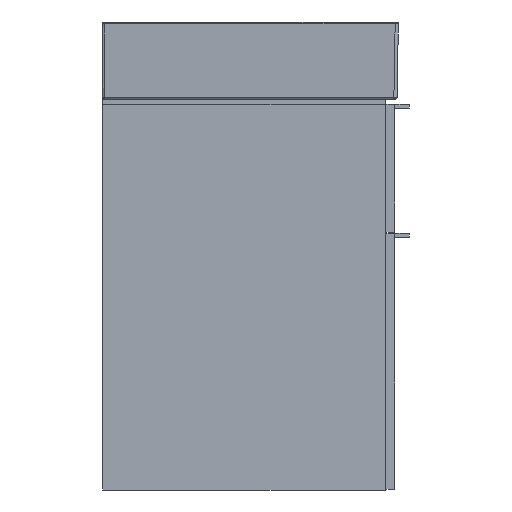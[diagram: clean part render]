
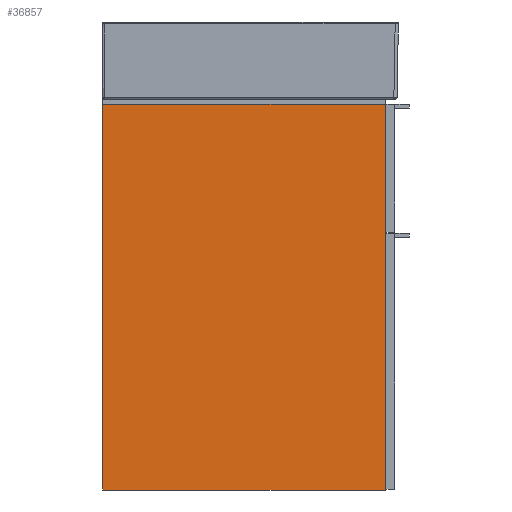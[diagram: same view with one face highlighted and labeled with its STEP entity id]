
A CAD part, left-side view. The second image highlights one B-rep face of the part: STEP entity #36857.
In plain terms, the highlighted planar face has unit normal (-1, 0, 0).
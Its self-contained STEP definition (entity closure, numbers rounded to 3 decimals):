
#3514=PLANE('',#41395);
#5259=LINE('',#127787,#8374);
#5264=LINE('',#127798,#8379);
#5266=LINE('',#127801,#8381);
#5267=LINE('',#127802,#8382);
#8374=VECTOR('',#47084,1.);
#8379=VECTOR('',#47093,1.);
#8381=VECTOR('',#47097,1.);
#8382=VECTOR('',#47098,1.);
#11232=FACE_OUTER_BOUND('',#12989,.T.);
#12989=EDGE_LOOP('',(#30505,#30506,#30507,#30508));
#19087=VERTEX_POINT('',#127780);
#19090=VERTEX_POINT('',#127785);
#19093=VERTEX_POINT('',#127795);
#19094=VERTEX_POINT('',#127797);
#24298=EDGE_CURVE('',#19090,#19087,#5259,.T.);
#24303=EDGE_CURVE('',#19094,#19093,#5264,.T.);
#24305=EDGE_CURVE('',#19093,#19087,#5266,.T.);
#24306=EDGE_CURVE('',#19090,#19094,#5267,.T.);
#30505=ORIENTED_EDGE('',*,*,#24305,.T.);
#30506=ORIENTED_EDGE('',*,*,#24298,.F.);
#30507=ORIENTED_EDGE('',*,*,#24306,.T.);
#30508=ORIENTED_EDGE('',*,*,#24303,.T.);
#36857=ADVANCED_FACE('',(#11232),#3514,.T.);
#41395=AXIS2_PLACEMENT_3D('',#127800,#47095,#47096);
#47084=DIRECTION('',(0.,-1.,0.));
#47093=DIRECTION('',(0.,-1.,0.));
#47095=DIRECTION('center_axis',(-1.,0.,0.));
#47096=DIRECTION('ref_axis',(0.,0.,1.));
#47097=DIRECTION('',(0.,0.,1.));
#47098=DIRECTION('',(0.,0.,-1.));
#127780=CARTESIAN_POINT('',(-1446.36,2065.749,1625.176));
#127785=CARTESIAN_POINT('',(-1446.36,2505.249,1625.176));
#127787=CARTESIAN_POINT('',(-1446.36,2505.249,1625.176));
#127795=CARTESIAN_POINT('',(-1446.36,2065.749,1025.176));
#127797=CARTESIAN_POINT('',(-1446.36,2505.249,1025.176));
#127798=CARTESIAN_POINT('',(-1446.36,2505.249,1025.176));
#127800=CARTESIAN_POINT('Origin',(-1446.36,2505.249,1025.176));
#127801=CARTESIAN_POINT('',(-1446.36,2065.749,1625.176));
#127802=CARTESIAN_POINT('',(-1446.36,2505.249,1625.176));
